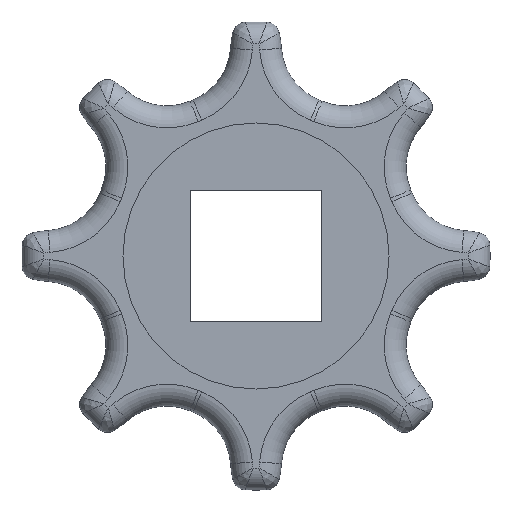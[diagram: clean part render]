
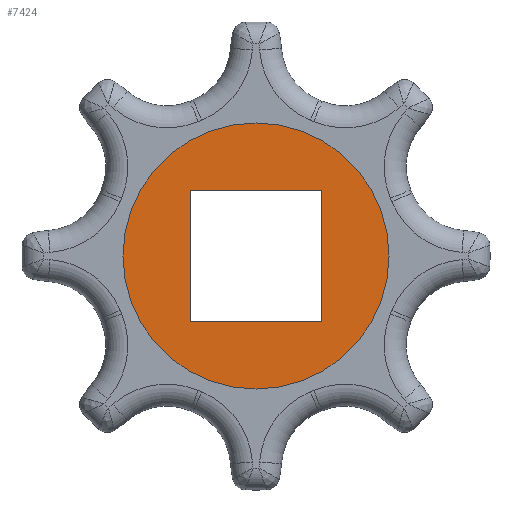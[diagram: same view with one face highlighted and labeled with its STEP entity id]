
A CAD part, left-side view. The second image highlights one B-rep face of the part: STEP entity #7424.
In plain terms, the highlighted planar face has unit normal (-1, 0, 0).
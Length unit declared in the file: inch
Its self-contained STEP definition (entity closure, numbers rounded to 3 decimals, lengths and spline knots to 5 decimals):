
#2469=CARTESIAN_POINT('',(-0.75,0.,0.));
#2470=DIRECTION('',(1.,0.,0.));
#2471=DIRECTION('',(0.,0.,-1.));
#2472=AXIS2_PLACEMENT_3D('',#2469,#2470,#2471);
#2474=CARTESIAN_POINT('',(-0.75,0.,0.));
#2475=DIRECTION('',(1.,0.,0.));
#2476=DIRECTION('',(0.,0.,1.));
#2477=AXIS2_PLACEMENT_3D('',#2474,#2475,#2476);
#2479=DIRECTION('',(0.,0.,-1.));
#2480=VECTOR('',#2479,1.5);
#2481=CARTESIAN_POINT('',(-0.75,-0.75,0.75));
#2482=LINE('',#2481,#2480);
#2483=DIRECTION('',(0.,-1.,0.));
#2484=VECTOR('',#2483,1.5);
#2485=CARTESIAN_POINT('',(-0.75,0.75,0.75));
#2486=LINE('',#2485,#2484);
#2487=DIRECTION('',(0.,0.,1.));
#2488=VECTOR('',#2487,1.5);
#2489=CARTESIAN_POINT('',(-0.75,0.75,-0.75));
#2490=LINE('',#2489,#2488);
#2491=DIRECTION('',(0.,1.,0.));
#2492=VECTOR('',#2491,1.5);
#2493=CARTESIAN_POINT('',(-0.75,-0.75,-0.75));
#2494=LINE('',#2493,#2492);
#2538=CARTESIAN_POINT('',(-0.75,-0.75,0.75));
#2540=VERTEX_POINT('',#2538);
#2542=CARTESIAN_POINT('',(-0.75,-0.75,-0.75));
#2544=VERTEX_POINT('',#2542);
#2546=CARTESIAN_POINT('',(-0.75,0.75,-0.75));
#2548=VERTEX_POINT('',#2546);
#2550=CARTESIAN_POINT('',(-0.75,0.75,0.75));
#2552=VERTEX_POINT('',#2550);
#2553=CARTESIAN_POINT('',(-0.75,0.,-1.51421));
#2554=CARTESIAN_POINT('',(-0.75,0.,1.51421));
#2555=VERTEX_POINT('',#2553);
#2556=VERTEX_POINT('',#2554);
#7405=CARTESIAN_POINT('',(-0.75,0.,0.));
#7406=DIRECTION('',(1.,0.,0.));
#7407=DIRECTION('',(0.,0.,-1.));
#7408=AXIS2_PLACEMENT_3D('',#7405,#7406,#7407);
#7409=PLANE('',#7408);
#7410=ORIENTED_EDGE('',*,*,#7357,.T.);
#7411=ORIENTED_EDGE('',*,*,#7386,.T.);
#7412=EDGE_LOOP('',(#7410,#7411));
#7413=FACE_OUTER_BOUND('',#7412,.F.);
#7415=ORIENTED_EDGE('',*,*,#7414,.F.);
#7417=ORIENTED_EDGE('',*,*,#7416,.F.);
#7419=ORIENTED_EDGE('',*,*,#7418,.F.);
#7421=ORIENTED_EDGE('',*,*,#7420,.F.);
#7422=EDGE_LOOP('',(#7415,#7417,#7419,#7421));
#7423=FACE_BOUND('',#7422,.F.);
#7424=ADVANCED_FACE('',(#7413,#7423),#7409,.F.);
#2473=CIRCLE('',#2472,1.51421);
#2478=CIRCLE('',#2477,1.51421);
#7357=EDGE_CURVE('',#2555,#2556,#2473,.T.);
#7386=EDGE_CURVE('',#2556,#2555,#2478,.T.);
#7414=EDGE_CURVE('',#2540,#2544,#2482,.T.);
#7416=EDGE_CURVE('',#2552,#2540,#2486,.T.);
#7418=EDGE_CURVE('',#2548,#2552,#2490,.T.);
#7420=EDGE_CURVE('',#2544,#2548,#2494,.T.);
